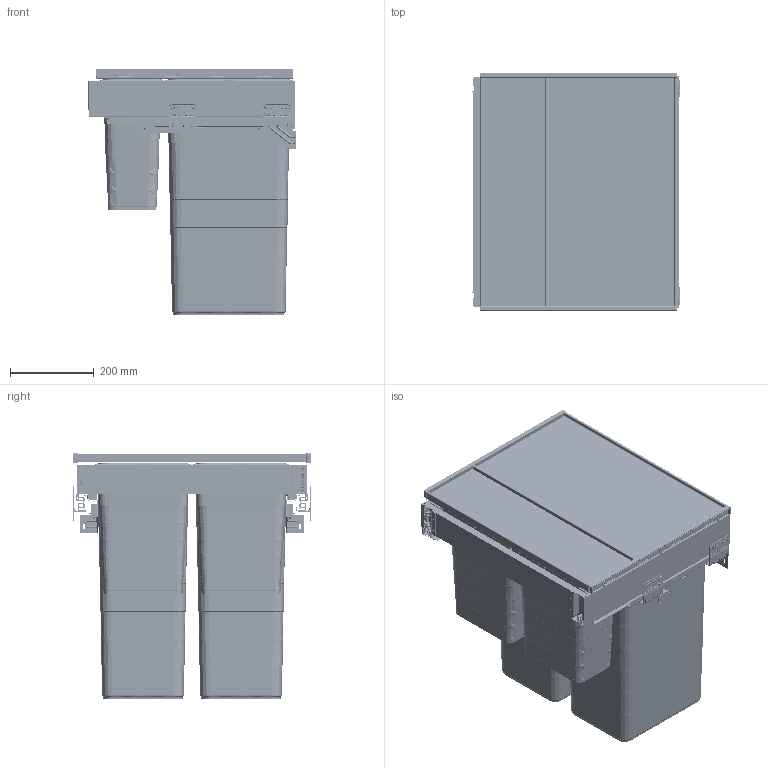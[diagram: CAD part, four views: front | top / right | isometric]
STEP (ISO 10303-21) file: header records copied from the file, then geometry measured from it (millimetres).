
FILE_DESCRIPTION(/* description */ (''),/* implementation_level */ '2;1');
FILE_NAME(/* name */ 'a_5271.E4_60ER_HÄNGER.SET_500_S16_EINS2PACK_5280.71_2X32L_2X8L.stp',/* time_stamp */ '2025-12-03T08:31:10+01:00',/* author */ (''),/* organization */ (''),/* preprocessor_version */ 'ST-DEVELOPER v20',/* originating_system */ 'SIEMENS PLM Software NX2412.7002',/* authorisation */ '');
FILE_SCHEMA (('AUTOMOTIVE_DESIGN { 1 0 10303 214 3 1 1 1 }'));
Products named in the file (1): a_5271.E4_60ER_HÄNGER.SET_500_S16_EINS2PACK_5280.71_2X32L_2X8L_ob
jects
Bounding box: 494.8 x 568 x 587.06 mm (x, y, z)
Volume: 10172935.7 mm3; surface area: 6287242.9 mm2
Topology: 73 solids, 91 shells, 13706 faces, 35992 edges, 22549 vertices
Faces by surface type: plane 4811, bspline 3598, cylinder 3197, cone 1029, torus 859, sphere 190, extrusion 18, revolution 4
Full cylindrical faces by diameter (mm): 2.6 x12, 3.6 x4, 3.95 x2, 4 x6, 4.9 x3, 5 x6, 6 x2, 6.3 x16, 7.5 x6, 8.9 x4, 9 x2, 12 x2
Entity records: 556072 total; most frequent: CARTESIAN_POINT 241010, ORIENTED_EDGE 70512, DIRECTION 58171, EDGE_CURVE 35256, VERTEX_POINT 22314, AXIS2_PLACEMENT_3D 21521, VECTOR 15125, LINE 15107
